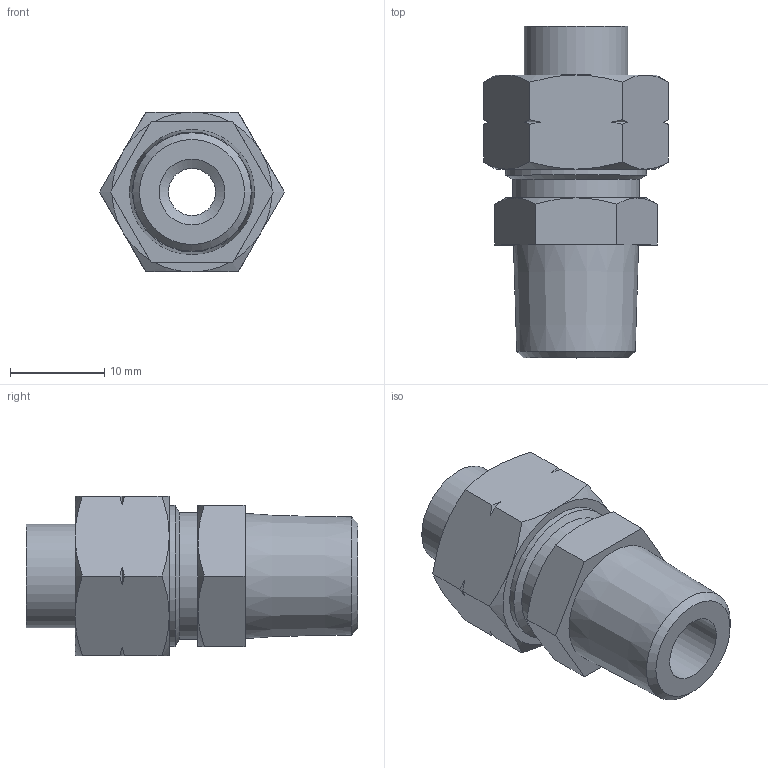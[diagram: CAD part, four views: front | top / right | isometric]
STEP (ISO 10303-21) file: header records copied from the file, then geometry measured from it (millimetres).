
FILE_DESCRIPTION((''),'2;1');
FILE_NAME('D:\INVENTOR\[New Inventor]\CDC Products 3D Ass''y\Two-Touch Fittings\Metric\CC\CC10-6.5--02.stp','2009-02-25T17:31:03',('Microsoft'),(''),'Autodesk Inventor 2008','Autodesk Inventor 2008','');
FILE_SCHEMA(('AUTOMOTIVE_DESIGN { 1 0 10303 214 1 1 1 1 }'));
Length unit declared in the file: millimetre
Products named in the file (1): CC10-6
Bounding box: 19.63 x 35.27 x 17 mm (x, y, z)
Volume: 4082.3 mm3; surface area: 3447 mm2
Topology: 1 solids, 1 shells, 62 faces, 138 edges, 84 vertices
Faces by surface type: cone 33, plane 20, cylinder 6, bspline 2, torus 1
Full cylindrical faces by diameter (mm): 5 x1, 6.3 x1, 10.2 x1, 11 x1, 13.5 x1, 15 x1
Entity records: 1628 total; most frequent: CARTESIAN_POINT 427, ORIENTED_EDGE 252, DIRECTION 230, EDGE_CURVE 126, AXIS2_PLACEMENT_3D 103, VERTEX_POINT 84, EDGE_LOOP 82, FACE_OUTER_BOUND 62
